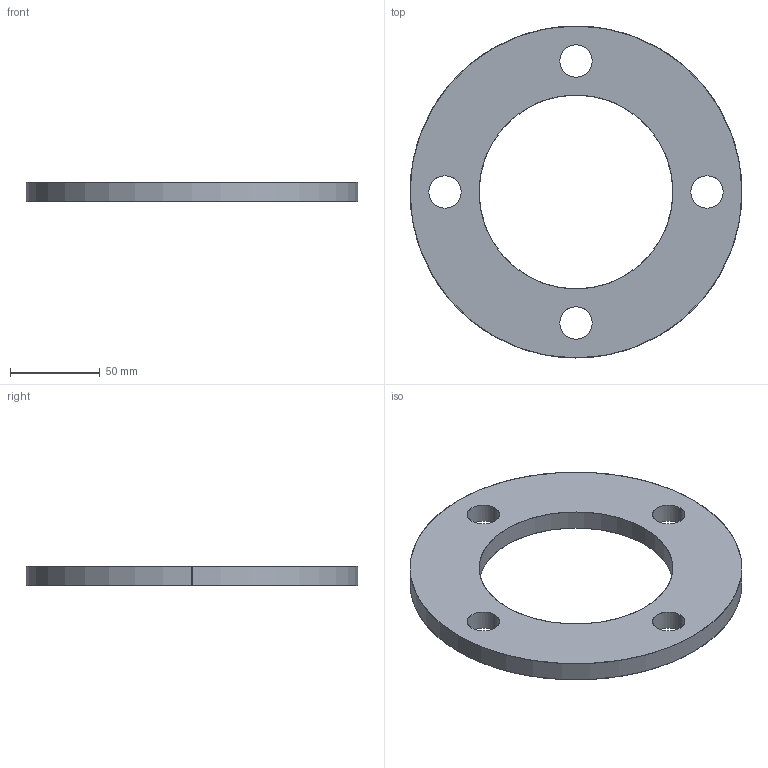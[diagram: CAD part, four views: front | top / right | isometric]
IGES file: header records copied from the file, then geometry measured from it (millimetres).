
Start section: SolidWorks IGES file using analytic representation for surfaces
Global section: file name: \\DOWNSHIFT.fusion-group.net\FR$\hwegrzynska\Desktop\Fusion Plast Australia- drawings\backing rings\AS4087 PN16 - Figure B7 Galvanised Backing Rings\BRDE90G.IGS; native system: SolidWorks 2019; preprocessor: SolidWorks 2019; author: hwegrzynska; date: 210514.120444; units: millimetre
Bounding box: 185 x 185 x 11 mm (x, y, z)
Surface area: 46016.5 mm2 (no closed solid volume)
Topology: 0 solids, 0 shells, 14 faces, 560 edges, 560 vertices
Faces by surface type: revolution 12, bspline 2
